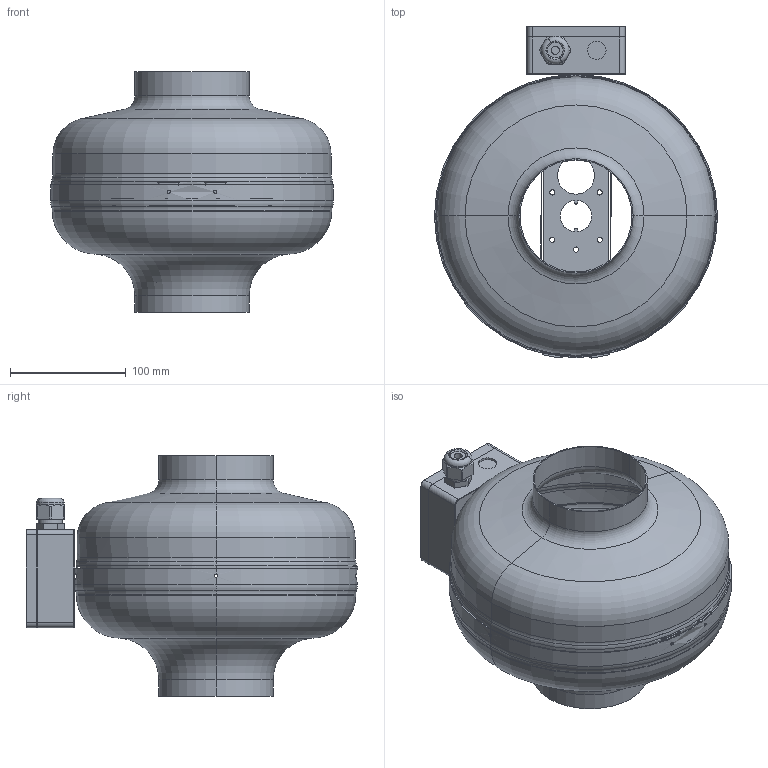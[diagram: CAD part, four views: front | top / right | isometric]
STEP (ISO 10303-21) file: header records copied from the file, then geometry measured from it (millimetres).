
FILE_DESCRIPTION (( 'STEP AP203' ), '1' );
FILE_NAME ('154597_00_RS100ECK01_step.step', '2022-10-10T08:17:46', ( '' ), ( '' ), 'SwSTEP 2.0', 'SolidWorks 2021', '' );
FILE_SCHEMA (( 'CONFIG_CONTROL_DESIGN' ));
Length unit declared in the file: millimetre
Products named in the file (1): 154597_00_RS100ECK01_step
Bounding box: 245 x 287.38 x 208.5 mm (x, y, z)
Surface area: 358675 mm2 (no closed solid volume)
Topology: 0 solids, 11 shells, 202 faces, 637 edges, 439 vertices
Faces by surface type: cylinder 85, plane 58, torus 42, cone 15, bspline 2
Entity records: 8519 total; most frequent: CARTESIAN_POINT 2794, DIRECTION 1220, ORIENTED_EDGE 1051, EDGE_CURVE 637, AXIS2_PLACEMENT_3D 472, VERTEX_POINT 439, VECTOR 276, LINE 276
